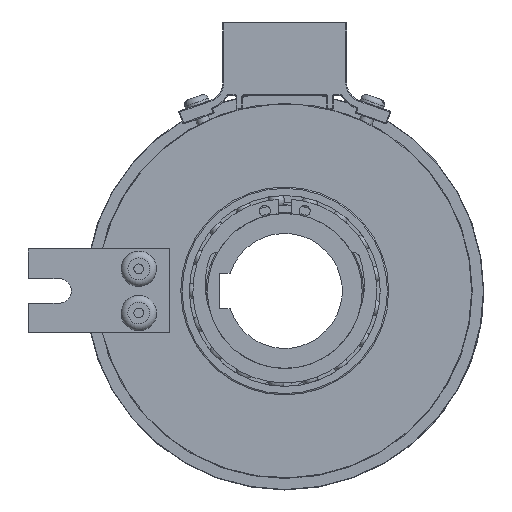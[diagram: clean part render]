
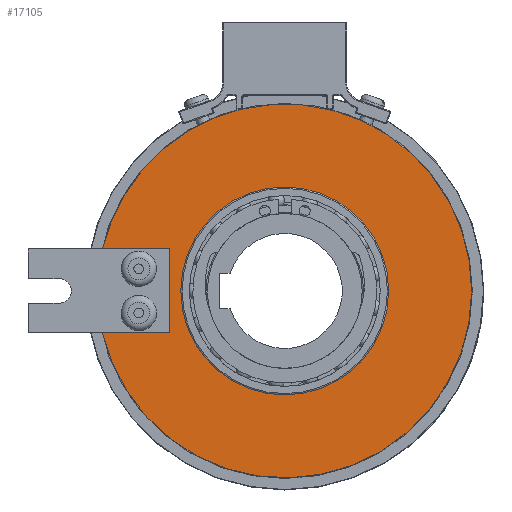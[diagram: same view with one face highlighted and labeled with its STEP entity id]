
A CAD part, left-side view. The second image highlights one B-rep face of the part: STEP entity #17105.
In plain terms, the highlighted planar face has unit normal (-1, 0, 0).
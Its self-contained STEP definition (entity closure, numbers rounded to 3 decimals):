
#524=PLANE('',#18976);
#717=FACE_BOUND('',#2917,.T.);
#1949=FACE_OUTER_BOUND('',#2916,.T.);
#2916=EDGE_LOOP('',(#13869,#13870,#13871,#13872,#13873,#13874));
#2917=EDGE_LOOP('',(#13875,#13876));
#3328=CIRCLE('',#17420,42.25);
#3331=CIRCLE('',#17423,42.25);
#4331=CIRCLE('',#18977,42.25);
#4332=CIRCLE('',#18978,23.5);
#4333=CIRCLE('',#18979,23.5);
#5188=LINE('',#31794,#5796);
#5205=LINE('',#31831,#5813);
#5208=LINE('',#31835,#5816);
#5796=VECTOR('',#22807,10.);
#5813=VECTOR('',#22840,10.);
#5816=VECTOR('',#22845,10.);
#6030=VERTEX_POINT('',#25029);
#6035=VERTEX_POINT('',#25039);
#6036=VERTEX_POINT('',#25041);
#6038=VERTEX_POINT('',#25045);
#7032=VERTEX_POINT('',#31793);
#7044=VERTEX_POINT('',#31829);
#7186=VERTEX_POINT('',#32256);
#7187=VERTEX_POINT('',#32257);
#7853=EDGE_CURVE('',#6036,#6035,#3328,.T.);
#7856=EDGE_CURVE('',#6030,#6038,#3331,.T.);
#9376=EDGE_CURVE('',#7032,#6036,#5188,.T.);
#9395=EDGE_CURVE('',#6038,#7044,#5205,.T.);
#9398=EDGE_CURVE('',#7044,#7032,#5208,.T.);
#9602=EDGE_CURVE('',#6035,#6030,#4331,.T.);
#9603=EDGE_CURVE('',#7186,#7187,#4332,.T.);
#9604=EDGE_CURVE('',#7187,#7186,#4333,.T.);
#13869=ORIENTED_EDGE('',*,*,#9376,.T.);
#13870=ORIENTED_EDGE('',*,*,#7853,.T.);
#13871=ORIENTED_EDGE('',*,*,#9602,.T.);
#13872=ORIENTED_EDGE('',*,*,#7856,.T.);
#13873=ORIENTED_EDGE('',*,*,#9395,.T.);
#13874=ORIENTED_EDGE('',*,*,#9398,.T.);
#13875=ORIENTED_EDGE('',*,*,#9603,.F.);
#13876=ORIENTED_EDGE('',*,*,#9604,.F.);
#17105=ADVANCED_FACE('',(#1949,#717),#524,.T.);
#17420=AXIS2_PLACEMENT_3D('',#25042,#19762,#19763);
#17423=AXIS2_PLACEMENT_3D('',#25047,#19768,#19769);
#18976=AXIS2_PLACEMENT_3D('',#32254,#23333,#23334);
#18977=AXIS2_PLACEMENT_3D('',#32255,#23335,#23336);
#18978=AXIS2_PLACEMENT_3D('',#32258,#23337,#23338);
#18979=AXIS2_PLACEMENT_3D('',#32259,#23339,#23340);
#19762=DIRECTION('center_axis',(-1.,0.,0.));
#19763=DIRECTION('ref_axis',(0.,1.,0.));
#19768=DIRECTION('center_axis',(-1.,0.,0.));
#19769=DIRECTION('ref_axis',(0.,1.,0.));
#22807=DIRECTION('',(0.,1.,0.));
#22840=DIRECTION('',(0.,-1.,0.));
#22845=DIRECTION('',(0.,0.,-1.));
#23333=DIRECTION('center_axis',(-1.,0.,0.));
#23334=DIRECTION('ref_axis',(0.,0.,
1.));
#23335=DIRECTION('center_axis',(-1.,0.,0.));
#23336=DIRECTION('ref_axis',(0.,1.,0.));
#23337=DIRECTION('center_axis',(-1.,0.,0.));
#23338=DIRECTION('ref_axis',(0.,1.,0.));
#23339=DIRECTION('center_axis',(-1.,0.,0.));
#23340=DIRECTION('ref_axis',(0.,1.,0.));
#25029=CARTESIAN_POINT('',(-31.3,9.654,41.132));
#25039=CARTESIAN_POINT('',(-31.3,-42.25,0.));
#25041=CARTESIAN_POINT('',(-31.3,41.168,-9.5));
#25042=CARTESIAN_POINT('Origin',(-31.3,0.,0.));
#25045=CARTESIAN_POINT('',(-31.3,41.168,9.5));
#25047=CARTESIAN_POINT('Origin',(-31.3,0.,0.));
#31793=CARTESIAN_POINT('',(-31.3,26.,-9.5));
#31794=CARTESIAN_POINT('',(-31.3,29.438,-9.5));
#31829=CARTESIAN_POINT('',(-31.3,26.,9.5));
#31831=CARTESIAN_POINT('',(-31.3,45.438,9.5));
#31835=CARTESIAN_POINT('',(-31.3,26.,4.75));
#32254=CARTESIAN_POINT('Origin',(-31.3,32.875,0.));
#32255=CARTESIAN_POINT('Origin',(-31.3,0.,0.));
#32256=CARTESIAN_POINT('',(-31.3,23.5,0.));
#32257=CARTESIAN_POINT('',(-31.3,-23.5,0.));
#32258=CARTESIAN_POINT('Origin',(-31.3,0.,0.));
#32259=CARTESIAN_POINT('Origin',(-31.3,0.,0.));
